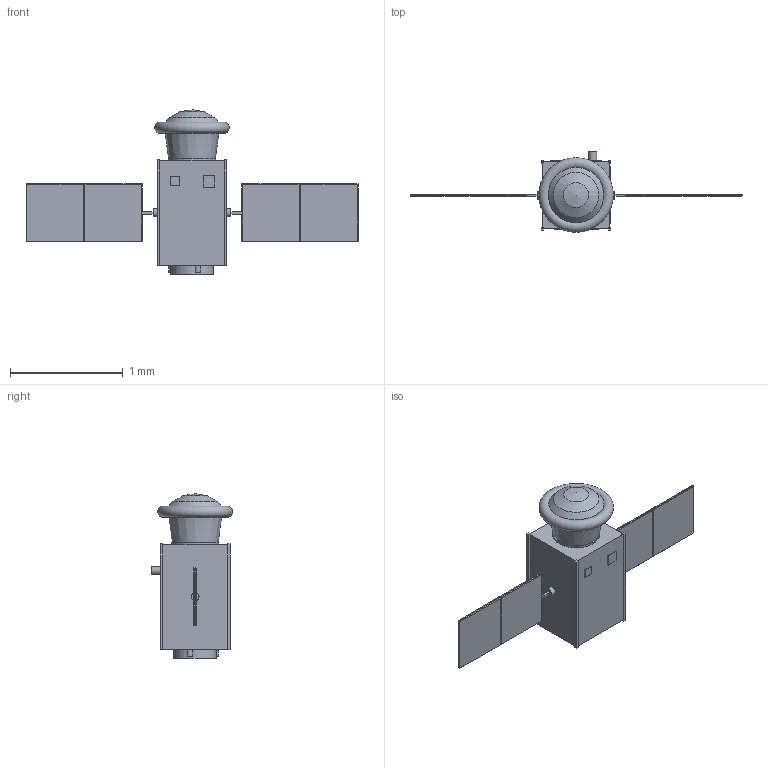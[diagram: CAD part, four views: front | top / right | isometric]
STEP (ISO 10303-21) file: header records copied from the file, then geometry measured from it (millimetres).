
FILE_DESCRIPTION(('Open CASCADE Model'),'2;1');
FILE_NAME('Open CASCADE Shape Model','2026-10-04T09:01:25',('Author'),( 'Open CASCADE'),'Open CASCADE STEP processor 7.9','Open CASCADE 7.9' ,'Unknown');
FILE_SCHEMA(('AUTOMOTIVE_DESIGN { 1 0 10303 214 1 1 1 1 }'));
Length unit declared in the file: millimetre
Products named in the file (48): SP-ALY; capsule_backshell; nose; heat_shield_packed; sample_drawer; sample_cassette_1; sample_cassette_2; optical_window; capsule_avionics_and_hold_battery; parachute_canister; recovery_beacon; separation_interface; service_module_structure; corner_rail_-X-Y; corner_rail_-X+Y; corner_rail_+X-Y; corner_rail_+X+Y; radiator_+Y_face; experiment_instruments_microscope_pumps_reservoirs; propellant_tank_LMP-103S; battery; on-board_computer_and_radios; reaction_wheel_1; reaction_wheel_2; reaction_wheel_3; magnetorquer_1; magnetorquer_2; star_tracker; S-band_antenna; X-band_antenna; gradient_furnace; furnace_radiator; 22_N_thruster_1; 22_N_thruster_2; 22_N_thruster_3; launch_separation_ring; array_drive_-X; yoke_-X; solar_panel_-X1; panel_frame_-X1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
Assembly tree (47 placements, depth 2):
  SP-ALY
    capsule_backshell
    nose
    heat_shield_packed
    sample_drawer
    sample_cassette_1
    sample_cassette_2
    optical_window
    capsule_avionics_and_hold_battery
    parachute_canister
    recovery_beacon
    separation_interface
    service_module_structure
    corner_rail_-X-Y
    corner_rail_-X+Y
    corner_rail_+X-Y
    corner_rail_+X+Y
    radiator_+Y_face
    experiment_instruments_microscope_pumps_reservoirs
    propellant_tank_LMP-103S
    battery
    on-board_computer_and_radios
    reaction_wheel_1
    reaction_wheel_2
    reaction_wheel_3
    magnetorquer_1
    magnetorquer_2
    star_tracker
    S-band_antenna
    X-band_antenna
    gradient_furnace
    furnace_radiator
    22_N_thruster_1
    22_N_thruster_2
    22_N_thruster_3
    launch_separation_ring
    array_drive_-X
    yoke_-X
    solar_panel_-X1
    panel_frame_-X1
    solar_panel_-X2
    panel_frame_-X2
    array_drive_+X
    yoke_+X
    solar_panel_+X1
    panel_frame_+X1
    solar_panel_+X2
    panel_frame_+X2
Bounding box: 2.94 x 0.72 x 1.46 mm (x, y, z)
Volume: 0.5 mm3; surface area: 13.4 mm2
Topology: 47 solids, 47 shells, 221 faces, 392 edges, 260 vertices
Faces by surface type: plane 197, cylinder 18, cone 4, torus 1, sphere 1
Full cylindrical faces by diameter (mm): 0.024 x2, 0.04 x1, 0.045 x3, 0.07 x3, 0.09 x3, 0.14 x1, 0.15 x1, 0.341 x1, 0.381 x1, 0.423 x1, 0.491 x1
Entity records: 11444 total; most frequent: DIRECTION 1744, CARTESIAN_POINT 1692, LINE 1085, VECTOR 1085, ORIENTED_EDGE 776, PCURVE 776, DEFINITIONAL_REPRESENTATION 776, EDGE_CURVE 388
